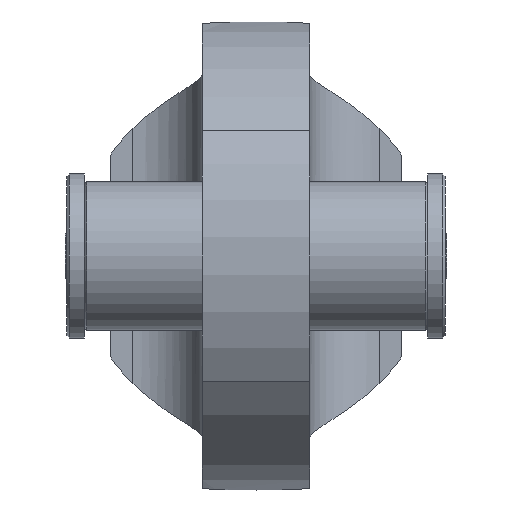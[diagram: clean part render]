
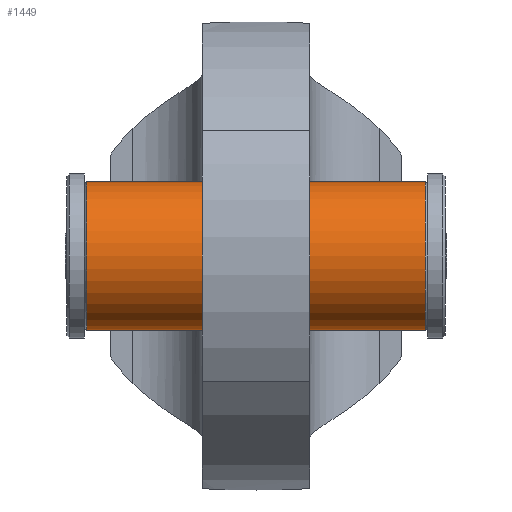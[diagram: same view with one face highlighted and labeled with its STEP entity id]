
A CAD part, left-side view. The second image highlights one B-rep face of the part: STEP entity #1449.
In plain terms, the highlighted cylindrical face has radius 59 mm (diameter 118 mm), a full revolution.
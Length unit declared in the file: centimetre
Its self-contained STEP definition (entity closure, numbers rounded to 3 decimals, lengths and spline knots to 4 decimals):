
#183=CYLINDRICAL_SURFACE('',#1598,5.9);
#279=FACE_BOUND('',#491,.T.);
#355=FACE_OUTER_BOUND('',#490,.T.);
#490=EDGE_LOOP('',(#1074));
#491=EDGE_LOOP('',(#1075));
#608=CIRCLE('',#1597,5.9);
#609=CIRCLE('',#1599,5.9);
#702=VERTEX_POINT('',#2294);
#703=VERTEX_POINT('',#2297);
#844=EDGE_CURVE('',#702,#702,#608,.T.);
#845=EDGE_CURVE('',#703,#703,#609,.T.);
#1074=ORIENTED_EDGE('',*,*,#845,.F.);
#1075=ORIENTED_EDGE('',*,*,#844,.F.);
#1449=ADVANCED_FACE('',(#355,#279),#183,.T.);
#1597=AXIS2_PLACEMENT_3D('',#2295,#1876,#1877);
#1598=AXIS2_PLACEMENT_3D('',#2296,#1878,#1879);
#1599=AXIS2_PLACEMENT_3D('',#2298,#1880,#1881);
#1876=DIRECTION('center_axis',(0.,1.,0.));
#1877=DIRECTION('ref_axis',(-1.,0.,0.));
#1878=DIRECTION('center_axis',(0.,-1.,0.));
#1879=DIRECTION('ref_axis',(-1.,0.,0.));
#1880=DIRECTION('center_axis',(0.,-1.,0.));
#1881=DIRECTION('ref_axis',(-1.,0.,0.));
#2294=CARTESIAN_POINT('',(5.9,13.4,0.));
#2295=CARTESIAN_POINT('Origin',(0.,13.4,0.));
#2296=CARTESIAN_POINT('Origin',(0.,0.,0.));
#2297=CARTESIAN_POINT('',(5.9,-13.4,0.));
#2298=CARTESIAN_POINT('Origin',(0.,-13.4,0.));
